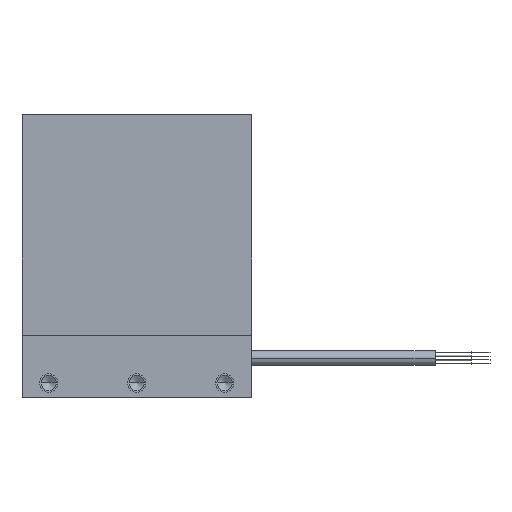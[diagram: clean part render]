
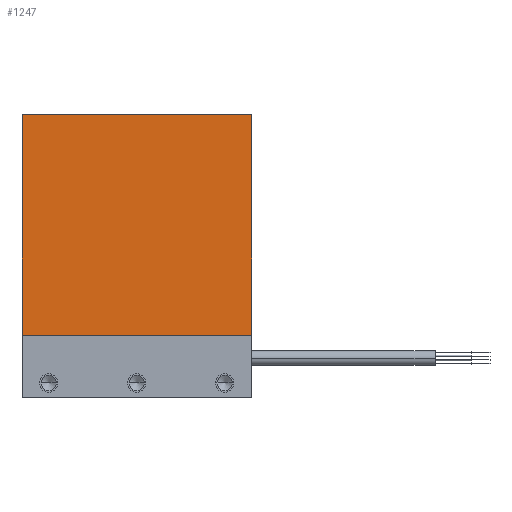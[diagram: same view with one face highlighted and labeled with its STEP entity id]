
A CAD part, left-side view. The second image highlights one B-rep face of the part: STEP entity #1247.
In plain terms, the highlighted planar face has unit normal (-1, 0, 0).
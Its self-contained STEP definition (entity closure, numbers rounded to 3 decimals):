
#21=DIRECTION('',(0.,0.,1.));
#22=VECTOR('',#21,60.3);
#23=CARTESIAN_POINT('',(-2.2,-31.35,0.));
#24=LINE('',#23,#22);
#71=DIRECTION('',(0.,1.,0.));
#72=VECTOR('',#71,62.7);
#73=CARTESIAN_POINT('',(-2.2,-31.35,60.3));
#74=LINE('',#73,#72);
#75=DIRECTION('',(0.,1.,0.));
#76=VECTOR('',#75,62.7);
#77=CARTESIAN_POINT('',(-2.2,-31.35,0.));
#78=LINE('',#77,#76);
#207=DIRECTION('',(0.,0.,1.));
#208=VECTOR('',#207,60.3);
#209=CARTESIAN_POINT('',(-2.2,31.35,0.));
#210=LINE('',#209,#208);
#903=CARTESIAN_POINT('',(-2.2,-31.35,0.));
#904=VERTEX_POINT('',#903);
#905=CARTESIAN_POINT('',(-2.2,-31.35,60.3));
#906=VERTEX_POINT('',#905);
#919=CARTESIAN_POINT('',(-2.2,31.35,0.));
#920=VERTEX_POINT('',#919);
#921=CARTESIAN_POINT('',(-2.2,31.35,60.3));
#922=VERTEX_POINT('',#921);
#1234=CARTESIAN_POINT('',(-2.2,-31.35,0.));
#1235=DIRECTION('',(-1.,0.,0.));
#1236=DIRECTION('',(0.,0.,1.));
#1237=AXIS2_PLACEMENT_3D('',#1234,#1235,#1236);
#1238=PLANE('',#1237);
#1239=ORIENTED_EDGE('',*,*,#1164,.F.);
#1241=ORIENTED_EDGE('',*,*,#1240,.T.);
#1243=ORIENTED_EDGE('',*,*,#1242,.T.);
#1244=ORIENTED_EDGE('',*,*,#1226,.F.);
#1245=EDGE_LOOP('',(#1239,#1241,#1243,#1244));
#1246=FACE_OUTER_BOUND('',#1245,.F.);
#1247=ADVANCED_FACE('',(#1246),#1238,.T.);
#1164=EDGE_CURVE('',#904,#906,#24,.T.);
#1226=EDGE_CURVE('',#906,#922,#74,.T.);
#1240=EDGE_CURVE('',#904,#920,#78,.T.);
#1242=EDGE_CURVE('',#920,#922,#210,.T.);
